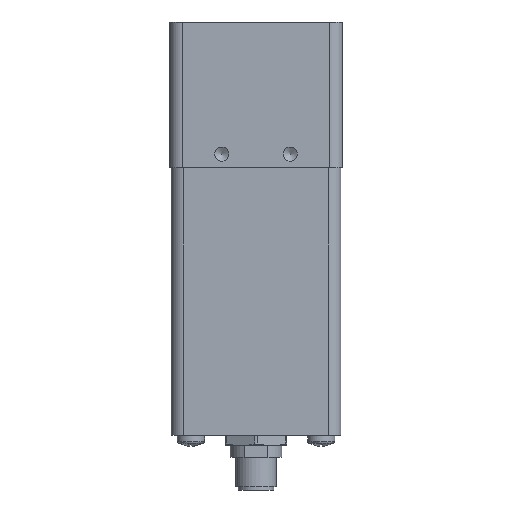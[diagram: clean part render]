
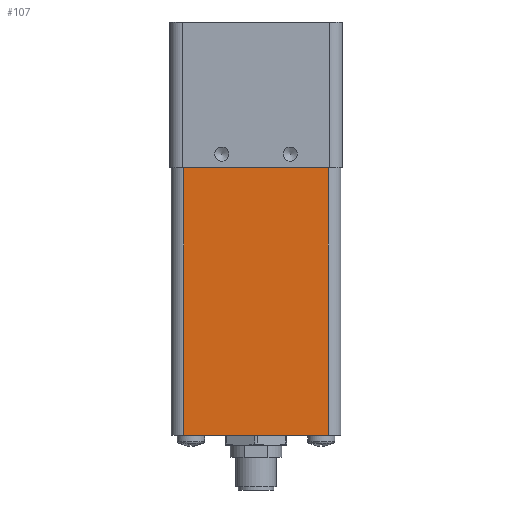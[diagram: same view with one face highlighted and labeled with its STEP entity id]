
A CAD part, front view. The second image highlights one B-rep face of the part: STEP entity #107.
In plain terms, the highlighted planar face has unit normal (0, -1, 0).
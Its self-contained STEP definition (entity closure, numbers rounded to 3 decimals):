
#68=CARTESIAN_POINT('',(0.425,0.425,-95.4));
#69=DIRECTION('',(0.0,-1.0,0.0));
#70=DIRECTION('',(0.0,0.0,-1.0));
#71=AXIS2_PLACEMENT_3D('',#68,#69,#70);
#72=PLANE('',#71);
#73=CARTESIAN_POINT('',(46.175,0.425,-20.5));
#74=VERTEX_POINT('',#73);
#75=CARTESIAN_POINT('',(46.175,0.425,-98.5));
#76=VERTEX_POINT('',#75);
#77=CARTESIAN_POINT('',(46.175,0.425,-20.5));
#78=DIRECTION('',(0.0,0.0,-1.0));
#79=VECTOR('',#78,78.0);
#80=LINE('',#77,#79);
#81=EDGE_CURVE('',#74,#76,#80,.T.);
#82=ORIENTED_EDGE('',*,*,#81,.F.);
#83=CARTESIAN_POINT('',(4.175,0.425,-20.5));
#84=VERTEX_POINT('',#83);
#85=CARTESIAN_POINT('',(4.175,0.425,-20.5));
#86=DIRECTION('',(1.0,0.0,0.0));
#87=VECTOR('',#86,42.0);
#88=LINE('',#85,#87);
#89=EDGE_CURVE('',#84,#74,#88,.T.);
#90=ORIENTED_EDGE('',*,*,#89,.F.);
#91=CARTESIAN_POINT('',(4.175,0.425,-98.5));
#92=VERTEX_POINT('',#91);
#93=CARTESIAN_POINT('',(4.175,0.425,-98.5));
#94=DIRECTION('',(0.0,0.0,1.0));
#95=VECTOR('',#94,78.0);
#96=LINE('',#93,#95);
#97=EDGE_CURVE('',#92,#84,#96,.T.);
#98=ORIENTED_EDGE('',*,*,#97,.F.);
#99=CARTESIAN_POINT('',(4.175,0.425,-98.5));
#100=DIRECTION('',(1.0,0.0,0.0));
#101=VECTOR('',#100,42.0);
#102=LINE('',#99,#101);
#103=EDGE_CURVE('',#92,#76,#102,.T.);
#104=ORIENTED_EDGE('',*,*,#103,.T.);
#105=EDGE_LOOP('',(#82,#90,#98,#104));
#106=FACE_OUTER_BOUND('',#105,.T.);
#107=ADVANCED_FACE('',(#106),#72,.T.);
